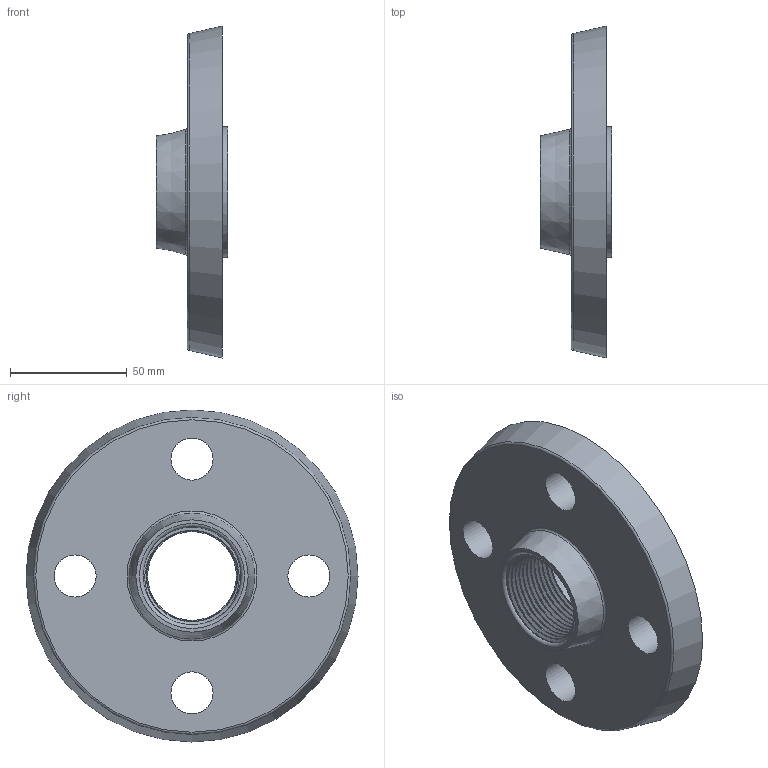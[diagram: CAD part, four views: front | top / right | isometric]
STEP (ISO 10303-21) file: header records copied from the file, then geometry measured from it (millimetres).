
FILE_DESCRIPTION(/* description */ (''),/* implementation_level */ '2;1');
FILE_NAME(/* name */ 'C:\Users\Gabriele\Desktop\disegni 3D\FF01\FF010400.ipt.stp',/* time_stamp */ '2017-01-25T17:53:34+01:00',/* author */ ('Gabriele'),/* organization */ (''),/* preprocessor_version */ 'ST-DEVELOPER v16.5',/* originating_system */ 'Autodesk Inventor 2017',/* authorisation */ '');
FILE_SCHEMA (('AUTOMOTIVE_DESIGN { 1 0 10303 214 3 1 1 }'));
Length unit declared in the file: millimetre
Products named in the file (1): FF010400
Bounding box: 30.5 x 142 x 142 mm (x, y, z)
Volume: 161716.6 mm3; surface area: 61564.8 mm2
Topology: 2 solids, 2 shells, 443 faces, 919 edges, 505 vertices
Faces by surface type: torus 167, cylinder 159, sphere 64, plane 45, bspline 6, cone 2
Full cylindrical faces by diameter (mm): 18 x4, 38 x1, 40.571 x1, 41.91 x2, 43.143 x1, 45.714 x1, 48.286 x1, 50.857 x1, 53.429 x1, 56 x1
Entity records: 16509 total; most frequent: CARTESIAN_POINT 6776, DIRECTION 2430, ORIENTED_EDGE 1784, AXIS2_PLACEMENT_3D 1119, EDGE_CURVE 892, CIRCLE 681, EDGE_LOOP 503, VERTEX_POINT 501
